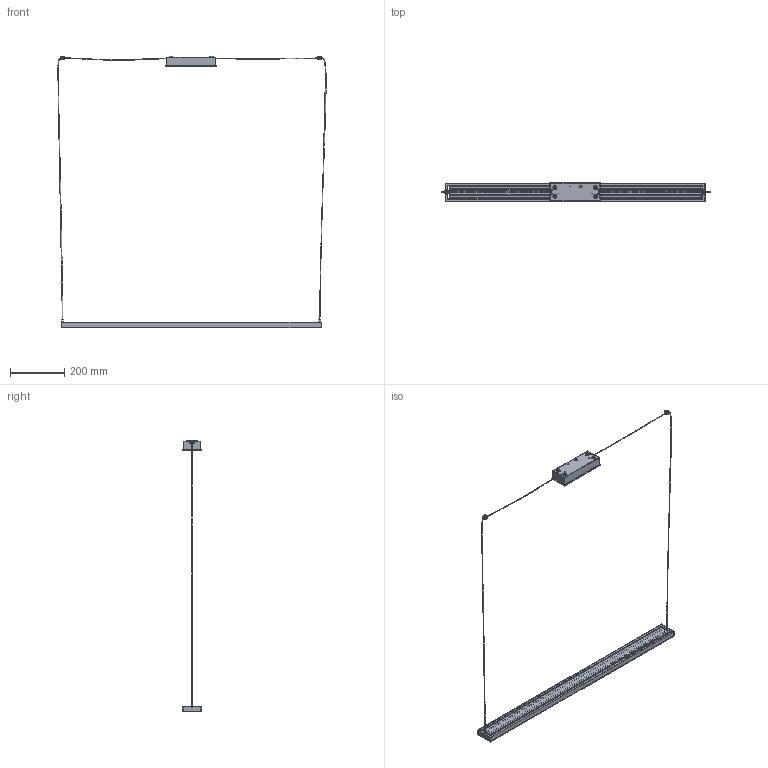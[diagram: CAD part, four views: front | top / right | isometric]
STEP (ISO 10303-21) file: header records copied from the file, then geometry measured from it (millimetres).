
FILE_DESCRIPTION(/* description */ ('Unknown'),/* implementation_level */ '2;1');
FILE_NAME(/* name */ '8475',/* time_stamp */ '2017-12-05T15:19:42+01:00',/* author */ ('Unknown'),/* organization */ ('Unknown'),/* preprocessor_version */ 'ST-DEVELOPER v16.7',/* originating_system */ 'DEX',/* authorisation */ $);
FILE_SCHEMA (('AUTOMOTIVE_DESIGN {1 0 10303 214 3 1 1}'));
Length unit declared in the file: millimetre
Products named in the file (15): 8475_3ds; 153000166064; 067000077351; 061000113359; 156000035064; 064000026358; 155000392064; 153000204064; 153000179999_oa_0; 153000179064_1; R2181-5; 067000075351; 067000074351; 8475_3ds_7.023_6.897_Filo 2_oa_1; 8475_3ds_7.023_6.897_Filo 2_oa_2
Assembly tree (20 placements, depth 3):
  8475_3ds
    153000166064
    067000077351  x2
    061000113359  x2
    156000035064
    064000026358
    155000392064  x2
    153000204064
    153000179999_oa_0
      153000179064_1
    R2181-5  x2
    067000075351  x2
    067000074351  x2
    8475_3ds_7.023_6.897_Filo 2_oa_1
    8475_3ds_7.023_6.897_Filo 2_oa_2
Bounding box: 990.9 x 70 x 1003 mm (x, y, z)
Volume: 559417.2 mm3; surface area: 594445.2 mm2
Topology: 19 solids, 19 shells, 328 faces, 806 edges, 532 vertices
Faces by surface type: plane 210, cylinder 78, cone 26, torus 12, bspline 2
Full cylindrical faces by diameter (mm): 2.459 x2, 2.5 x2, 2.6 x7, 3 x4, 3.242 x2, 4 x2, 4.134 x2, 5 x8, 6 x2, 6.917 x2, 8 x4, 8.9 x2, 9 x2, 10.5 x1, 10.917 x2, 12 x2, 16 x4
Entity records: 8505 total; most frequent: CARTESIAN_POINT 1577, DIRECTION 1186, ORIENTED_EDGE 1044, EDGE_CURVE 522, AXIS2_PLACEMENT_3D 411, FACE_BOUND 381, EDGE_LOOP 380, VERTEX_POINT 379
